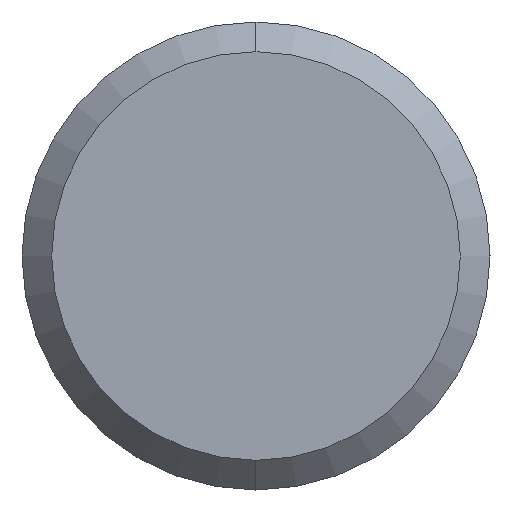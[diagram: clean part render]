
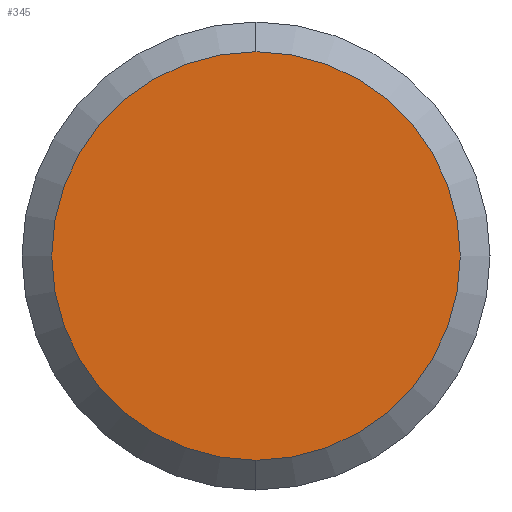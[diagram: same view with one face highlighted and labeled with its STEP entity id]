
A CAD part, left-side view. The second image highlights one B-rep face of the part: STEP entity #345.
In plain terms, the highlighted planar face has unit normal (-1, 0, 0).
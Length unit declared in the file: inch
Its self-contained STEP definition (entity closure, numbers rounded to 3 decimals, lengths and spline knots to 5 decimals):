
#8 = DIRECTION ( 'NONE',  ( 1., 0., 0. ) ) ;
#22 = CARTESIAN_POINT ( 'NONE',  ( 0., 0.17185, 0. ) ) ;
#31 = CARTESIAN_POINT ( 'NONE',  ( 0., 0., -0.17185 ) ) ;
#39 = DIRECTION ( 'NONE',  ( 0., 0., -1. ) ) ;
#42 = CARTESIAN_POINT ( 'NONE',  ( 0., 0., 0. ) ) ;
#70 = EDGE_CURVE ( 'NONE', #390, #125, #301, .T. ) ;
#114 = CARTESIAN_POINT ( 'NONE',  ( 0., 0., 0. ) ) ;
#125 = VERTEX_POINT ( 'NONE', #225 ) ;
#140 = CIRCLE ( 'NONE', #158, 0.17185 ) ;
#158 = AXIS2_PLACEMENT_3D ( 'NONE', #114, #265, #343 ) ;
#172 = DIRECTION ( 'NONE',  ( -1., 0., 0. ) ) ;
#189 = EDGE_LOOP ( 'NONE', ( #426, #453 ) ) ;
#191 = EDGE_CURVE ( 'NONE', #125, #390, #140, .T. ) ;
#207 = FACE_OUTER_BOUND ( 'NONE', #189, .T. ) ;
#218 = AXIS2_PLACEMENT_3D ( 'NONE', #42, #8, #39 ) ;
#225 = CARTESIAN_POINT ( 'NONE',  ( 0., 0., 0.17185 ) ) ;
#255 = AXIS2_PLACEMENT_3D ( 'NONE', #22, #172, #285 ) ;
#265 = DIRECTION ( 'NONE',  ( 1., 0., 0. ) ) ;
#285 = DIRECTION ( 'NONE',  ( 0., 0., 1. ) ) ;
#301 = CIRCLE ( 'NONE', #218, 0.17185 ) ;
#343 = DIRECTION ( 'NONE',  ( 0., 0., -1. ) ) ;
#345 = ADVANCED_FACE ( 'NONE', ( #207 ), #350, .T. ) ;
#350 = PLANE ( 'NONE',  #255 ) ;
#390 = VERTEX_POINT ( 'NONE', #31 ) ;
#426 = ORIENTED_EDGE ( 'NONE', *, *, #70, .F. ) ;
#453 = ORIENTED_EDGE ( 'NONE', *, *, #191, .F. ) ;
